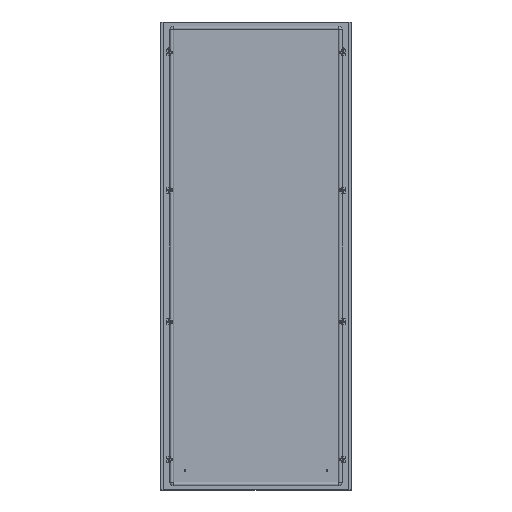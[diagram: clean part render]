
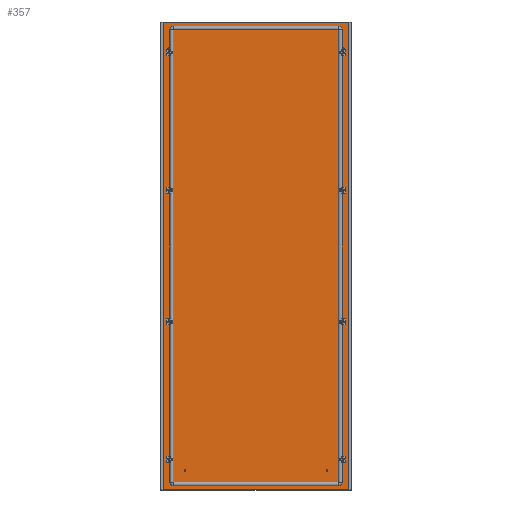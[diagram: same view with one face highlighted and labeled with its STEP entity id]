
A CAD part, top view. The second image highlights one B-rep face of the part: STEP entity #357.
In plain terms, the highlighted planar face has unit normal (0, 0, 1).
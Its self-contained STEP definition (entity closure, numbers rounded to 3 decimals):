
#357 = ADVANCED_FACE('',(#358,#456,#467,#478,#498,#518,#529,#540,#560),
  #580,.F.);
#358 = FACE_BOUND('',#359,.T.);
#359 = EDGE_LOOP('',(#360,#370,#378,#386,#394,#402,#410,#418,#426,#434,
    #442,#450));
#360 = ORIENTED_EDGE('',*,*,#361,.F.);
#361 = EDGE_CURVE('',#362,#364,#366,.T.);
#362 = VERTEX_POINT('',#363);
#363 = CARTESIAN_POINT('',(-395.5,977.5,0.));
#364 = VERTEX_POINT('',#365);
#365 = CARTESIAN_POINT('',(-395.3,977.5,0.));
#366 = LINE('',#367,#368);
#367 = CARTESIAN_POINT('',(0.,977.5,0.)
  );
#368 = VECTOR('',#369,1.);
#369 = DIRECTION('',(1.,0.,0.));
#370 = ORIENTED_EDGE('',*,*,#371,.T.);
#371 = EDGE_CURVE('',#362,#372,#374,.T.);
#372 = VERTEX_POINT('',#373);
#373 = CARTESIAN_POINT('',(-395.5,-977.5,0.));
#374 = LINE('',#375,#376);
#375 = CARTESIAN_POINT('',(-395.5,0.,0.));
#376 = VECTOR('',#377,1.);
#377 = DIRECTION('',(0.,-1.,-0.));
#378 = ORIENTED_EDGE('',*,*,#379,.T.);
#379 = EDGE_CURVE('',#372,#380,#382,.T.);
#380 = VERTEX_POINT('',#381);
#381 = CARTESIAN_POINT('',(-395.3,-977.5,0.));
#382 = LINE('',#383,#384);
#383 = CARTESIAN_POINT('',(0.,-977.5,
    0.));
#384 = VECTOR('',#385,1.);
#385 = DIRECTION('',(1.,-0.,-0.));
#386 = ORIENTED_EDGE('',*,*,#387,.F.);
#387 = EDGE_CURVE('',#388,#380,#390,.T.);
#388 = VERTEX_POINT('',#389);
#389 = CARTESIAN_POINT('',(-395.3,-976.,0.));
#390 = LINE('',#391,#392);
#391 = CARTESIAN_POINT('',(-395.3,0.,0.)
  );
#392 = VECTOR('',#393,1.);
#393 = DIRECTION('',(0.,-1.,0.));
#394 = ORIENTED_EDGE('',*,*,#395,.T.);
#395 = EDGE_CURVE('',#388,#396,#398,.T.);
#396 = VERTEX_POINT('',#397);
#397 = CARTESIAN_POINT('',(395.3,-976.,0.));
#398 = LINE('',#399,#400);
#399 = CARTESIAN_POINT('',(0.,-976.,0.
    ));
#400 = VECTOR('',#401,1.);
#401 = DIRECTION('',(1.,-0.,-0.));
#402 = ORIENTED_EDGE('',*,*,#403,.T.);
#403 = EDGE_CURVE('',#396,#404,#406,.T.);
#404 = VERTEX_POINT('',#405);
#405 = CARTESIAN_POINT('',(395.3,-977.5,0.));
#406 = LINE('',#407,#408);
#407 = CARTESIAN_POINT('',(395.3,-976.,0.));
#408 = VECTOR('',#409,1.);
#409 = DIRECTION('',(0.,-1.,-0.));
#410 = ORIENTED_EDGE('',*,*,#411,.F.);
#411 = EDGE_CURVE('',#412,#404,#414,.T.);
#412 = VERTEX_POINT('',#413);
#413 = CARTESIAN_POINT('',(395.5,-977.5,0.));
#414 = LINE('',#415,#416);
#415 = CARTESIAN_POINT('',(0.,-977.5,0.
    ));
#416 = VECTOR('',#417,1.);
#417 = DIRECTION('',(-1.,0.,0.));
#418 = ORIENTED_EDGE('',*,*,#419,.T.);
#419 = EDGE_CURVE('',#412,#420,#422,.T.);
#420 = VERTEX_POINT('',#421);
#421 = CARTESIAN_POINT('',(395.5,977.5,0.));
#422 = LINE('',#423,#424);
#423 = CARTESIAN_POINT('',(395.5,0.,0.));
#424 = VECTOR('',#425,1.);
#425 = DIRECTION('',(-0.,1.,-0.));
#426 = ORIENTED_EDGE('',*,*,#427,.T.);
#427 = EDGE_CURVE('',#420,#428,#430,.T.);
#428 = VERTEX_POINT('',#429);
#429 = CARTESIAN_POINT('',(395.3,977.5,0.));
#430 = LINE('',#431,#432);
#431 = CARTESIAN_POINT('',(0.,977.5,0.)
  );
#432 = VECTOR('',#433,1.);
#433 = DIRECTION('',(-1.,-0.,-0.));
#434 = ORIENTED_EDGE('',*,*,#435,.F.);
#435 = EDGE_CURVE('',#436,#428,#438,.T.);
#436 = VERTEX_POINT('',#437);
#437 = CARTESIAN_POINT('',(395.3,976.,0.));
#438 = LINE('',#439,#440);
#439 = CARTESIAN_POINT('',(395.3,0.,
    0.));
#440 = VECTOR('',#441,1.);
#441 = DIRECTION('',(0.,1.,0.));
#442 = ORIENTED_EDGE('',*,*,#443,.T.);
#443 = EDGE_CURVE('',#436,#444,#446,.T.);
#444 = VERTEX_POINT('',#445);
#445 = CARTESIAN_POINT('',(-395.3,976.,0.));
#446 = LINE('',#447,#448);
#447 = CARTESIAN_POINT('',(0.,976.,0.)
  );
#448 = VECTOR('',#449,1.);
#449 = DIRECTION('',(-1.,-0.,-0.));
#450 = ORIENTED_EDGE('',*,*,#451,.T.);
#451 = EDGE_CURVE('',#444,#364,#452,.T.);
#452 = LINE('',#453,#454);
#453 = CARTESIAN_POINT('',(-395.3,976.,0.));
#454 = VECTOR('',#455,1.);
#455 = DIRECTION('',(0.,1.,-0.));
#456 = FACE_BOUND('',#457,.T.);
#457 = EDGE_LOOP('',(#458));
#458 = ORIENTED_EDGE('',*,*,#459,.T.);
#459 = EDGE_CURVE('',#460,#460,#462,.T.);
#460 = VERTEX_POINT('',#461);
#461 = CARTESIAN_POINT('',(-364.5,-270.25,0.));
#462 = CIRCLE('',#463,4.75);
#463 = AXIS2_PLACEMENT_3D('',#464,#465,#466);
#464 = CARTESIAN_POINT('',(-364.5,-275.,0.));
#465 = DIRECTION('',(0.,0.,-1.));
#466 = DIRECTION('',(0.,1.,0.));
#467 = FACE_BOUND('',#468,.T.);
#468 = EDGE_LOOP('',(#469));
#469 = ORIENTED_EDGE('',*,*,#470,.T.);
#470 = EDGE_CURVE('',#471,#471,#473,.T.);
#471 = VERTEX_POINT('',#472);
#472 = CARTESIAN_POINT('',(364.5,-279.75,
    0.));
#473 = CIRCLE('',#474,4.75);
#474 = AXIS2_PLACEMENT_3D('',#475,#476,#477);
#475 = CARTESIAN_POINT('',(364.5,-275.,0.));
#476 = DIRECTION('',(-0.,0.,-1.));
#477 = DIRECTION('',(0.,-1.,0.));
#478 = FACE_BOUND('',#479,.T.);
#479 = EDGE_LOOP('',(#480,#491));
#480 = ORIENTED_EDGE('',*,*,#481,.F.);
#481 = EDGE_CURVE('',#482,#484,#486,.T.);
#482 = VERTEX_POINT('',#483);
#483 = CARTESIAN_POINT('',(-364.5,854.75,0.));
#484 = VERTEX_POINT('',#485);
#485 = CARTESIAN_POINT('',(-364.5,845.25,0.));
#486 = CIRCLE('',#487,4.75);
#487 = AXIS2_PLACEMENT_3D('',#488,#489,#490);
#488 = CARTESIAN_POINT('',(-364.5,850.,0.));
#489 = DIRECTION('',(0.,0.,1.));
#490 = DIRECTION('',(0.,1.,0.));
#491 = ORIENTED_EDGE('',*,*,#492,.F.);
#492 = EDGE_CURVE('',#484,#482,#493,.T.);
#493 = CIRCLE('',#494,4.75);
#494 = AXIS2_PLACEMENT_3D('',#495,#496,#497);
#495 = CARTESIAN_POINT('',(-364.5,850.,0.));
#496 = DIRECTION('',(0.,0.,1.));
#497 = DIRECTION('',(0.,1.,0.));
#498 = FACE_BOUND('',#499,.T.);
#499 = EDGE_LOOP('',(#500,#511));
#500 = ORIENTED_EDGE('',*,*,#501,.F.);
#501 = EDGE_CURVE('',#502,#504,#506,.T.);
#502 = VERTEX_POINT('',#503);
#503 = CARTESIAN_POINT('',(364.5,845.25,
    0.));
#504 = VERTEX_POINT('',#505);
#505 = CARTESIAN_POINT('',(364.5,854.75,
    0.));
#506 = CIRCLE('',#507,4.75);
#507 = AXIS2_PLACEMENT_3D('',#508,#509,#510);
#508 = CARTESIAN_POINT('',(364.5,850.,0.));
#509 = DIRECTION('',(0.,0.,1.));
#510 = DIRECTION('',(0.,-1.,0.));
#511 = ORIENTED_EDGE('',*,*,#512,.F.);
#512 = EDGE_CURVE('',#504,#502,#513,.T.);
#513 = CIRCLE('',#514,4.75);
#514 = AXIS2_PLACEMENT_3D('',#515,#516,#517);
#515 = CARTESIAN_POINT('',(364.5,850.,0.));
#516 = DIRECTION('',(0.,0.,1.));
#517 = DIRECTION('',(0.,-1.,0.));
#518 = FACE_BOUND('',#519,.T.);
#519 = EDGE_LOOP('',(#520));
#520 = ORIENTED_EDGE('',*,*,#521,.T.);
#521 = EDGE_CURVE('',#522,#522,#524,.T.);
#522 = VERTEX_POINT('',#523);
#523 = CARTESIAN_POINT('',(-364.5,-845.25,0.));
#524 = CIRCLE('',#525,4.75);
#525 = AXIS2_PLACEMENT_3D('',#526,#527,#528);
#526 = CARTESIAN_POINT('',(-364.5,-850.,0.));
#527 = DIRECTION('',(0.,0.,-1.));
#528 = DIRECTION('',(0.,1.,0.));
#529 = FACE_BOUND('',#530,.T.);
#530 = EDGE_LOOP('',(#531));
#531 = ORIENTED_EDGE('',*,*,#532,.T.);
#532 = EDGE_CURVE('',#533,#533,#535,.T.);
#533 = VERTEX_POINT('',#534);
#534 = CARTESIAN_POINT('',(364.5,-854.75,
    0.));
#535 = CIRCLE('',#536,4.75);
#536 = AXIS2_PLACEMENT_3D('',#537,#538,#539);
#537 = CARTESIAN_POINT('',(364.5,-850.,0.));
#538 = DIRECTION('',(-0.,0.,-1.));
#539 = DIRECTION('',(0.,-1.,0.));
#540 = FACE_BOUND('',#541,.T.);
#541 = EDGE_LOOP('',(#542,#553));
#542 = ORIENTED_EDGE('',*,*,#543,.F.);
#543 = EDGE_CURVE('',#544,#546,#548,.T.);
#544 = VERTEX_POINT('',#545);
#545 = CARTESIAN_POINT('',(364.5,270.25,
    0.));
#546 = VERTEX_POINT('',#547);
#547 = CARTESIAN_POINT('',(364.5,279.75,
    0.));
#548 = CIRCLE('',#549,4.75);
#549 = AXIS2_PLACEMENT_3D('',#550,#551,#552);
#550 = CARTESIAN_POINT('',(364.5,275.,0.));
#551 = DIRECTION('',(0.,0.,1.));
#552 = DIRECTION('',(0.,-1.,0.));
#553 = ORIENTED_EDGE('',*,*,#554,.F.);
#554 = EDGE_CURVE('',#546,#544,#555,.T.);
#555 = CIRCLE('',#556,4.75);
#556 = AXIS2_PLACEMENT_3D('',#557,#558,#559);
#557 = CARTESIAN_POINT('',(364.5,275.,0.));
#558 = DIRECTION('',(0.,0.,1.));
#559 = DIRECTION('',(0.,-1.,0.));
#560 = FACE_BOUND('',#561,.T.);
#561 = EDGE_LOOP('',(#562,#573));
#562 = ORIENTED_EDGE('',*,*,#563,.F.);
#563 = EDGE_CURVE('',#564,#566,#568,.T.);
#564 = VERTEX_POINT('',#565);
#565 = CARTESIAN_POINT('',(-364.5,279.75,0.));
#566 = VERTEX_POINT('',#567);
#567 = CARTESIAN_POINT('',(-364.5,270.25,0.));
#568 = CIRCLE('',#569,4.75);
#569 = AXIS2_PLACEMENT_3D('',#570,#571,#572);
#570 = CARTESIAN_POINT('',(-364.5,275.,0.));
#571 = DIRECTION('',(0.,0.,1.));
#572 = DIRECTION('',(0.,1.,0.));
#573 = ORIENTED_EDGE('',*,*,#574,.F.);
#574 = EDGE_CURVE('',#566,#564,#575,.T.);
#575 = CIRCLE('',#576,4.75);
#576 = AXIS2_PLACEMENT_3D('',#577,#578,#579);
#577 = CARTESIAN_POINT('',(-364.5,275.,0.));
#578 = DIRECTION('',(0.,0.,1.));
#579 = DIRECTION('',(0.,1.,0.));
#580 = PLANE('',#581);
#581 = AXIS2_PLACEMENT_3D('',#582,#583,#584);
#582 = CARTESIAN_POINT('',(0.,0.,0.));
#583 = DIRECTION('',(0.,0.,-1.));
#584 = DIRECTION('',(-1.,0.,0.));
